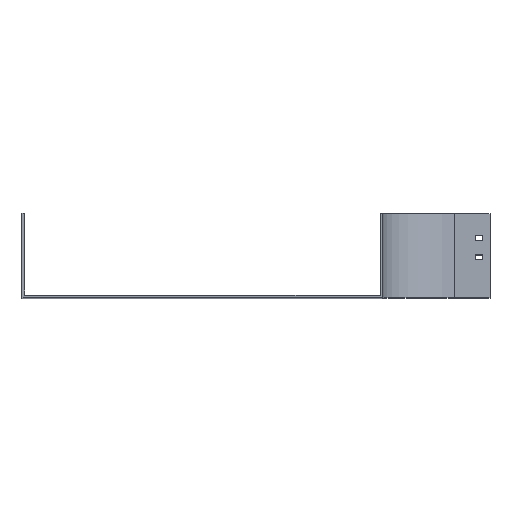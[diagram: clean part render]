
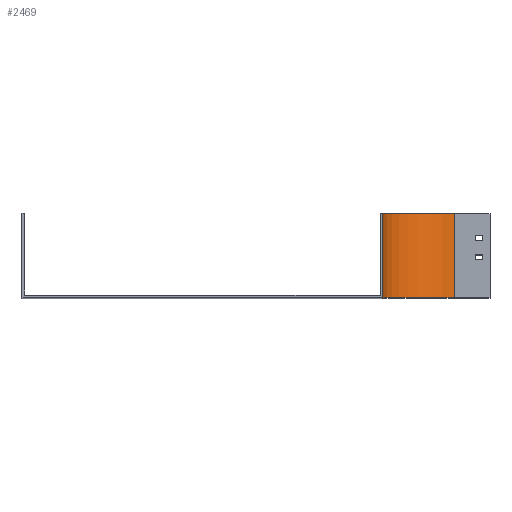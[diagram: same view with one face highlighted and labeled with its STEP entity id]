
A CAD part, top view. The second image highlights one B-rep face of the part: STEP entity #2469.
In plain terms, the highlighted cylindrical face has radius 100 mm (diameter 200 mm), a partial arc.
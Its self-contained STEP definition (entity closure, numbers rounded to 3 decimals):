
#34 = VERTEX_POINT ( 'NONE', #1162 ) ;
#69 = EDGE_LOOP ( 'NONE', ( #1369, #306, #1357, #2730 ) ) ;
#108 = EDGE_CURVE ( 'NONE', #2663, #34, #1078, .T. ) ;
#184 = DIRECTION ( 'NONE',  ( 0., 0., -1. ) ) ;
#306 = ORIENTED_EDGE ( 'NONE', *, *, #108, .F. ) ;
#365 = AXIS2_PLACEMENT_3D ( 'NONE', #1504, #2346, #184 ) ;
#392 = DIRECTION ( 'NONE',  ( 0., -1., 0. ) ) ;
#601 = DIRECTION ( 'NONE',  ( 0., 0., -1. ) ) ;
#727 = DIRECTION ( 'NONE',  ( 0., 0., -1. ) ) ;
#779 = CARTESIAN_POINT ( 'NONE',  ( -100., 117.5, 0. ) ) ;
#865 = CIRCLE ( 'NONE', #365, 100. ) ;
#916 = VECTOR ( 'NONE', #979, 1000. ) ;
#979 = DIRECTION ( 'NONE',  ( 0., -1., 0. ) ) ;
#989 = AXIS2_PLACEMENT_3D ( 'NONE', #1616, #2393, #727 ) ;
#1078 = LINE ( 'NONE', #1507, #1843 ) ;
#1159 = LINE ( 'NONE', #779, #916 ) ;
#1162 = CARTESIAN_POINT ( 'NONE',  ( 0., 0., -100. ) ) ;
#1183 = EDGE_CURVE ( 'NONE', #2028, #34, #1399, .T. ) ;
#1249 = EDGE_CURVE ( 'NONE', #2709, #2663, #865, .T. ) ;
#1294 = DIRECTION ( 'NONE',  ( 0., -1., 0. ) ) ;
#1357 = ORIENTED_EDGE ( 'NONE', *, *, #1249, .F. ) ;
#1369 = ORIENTED_EDGE ( 'NONE', *, *, #1183, .T. ) ;
#1399 = CIRCLE ( 'NONE', #989, 100. ) ;
#1504 = CARTESIAN_POINT ( 'NONE',  ( 0., 117.5, 0. ) ) ;
#1507 = CARTESIAN_POINT ( 'NONE',  ( 0., 117.5, -100. ) ) ;
#1616 = CARTESIAN_POINT ( 'NONE',  ( 0., 0., 0. ) ) ;
#1723 = CARTESIAN_POINT ( 'NONE',  ( -100., 0., 0. ) ) ;
#1752 = CARTESIAN_POINT ( 'NONE',  ( 0., 117.5, -100. ) ) ;
#1843 = VECTOR ( 'NONE', #1294, 1000. ) ;
#1953 = EDGE_CURVE ( 'NONE', #2709, #2028, #1159, .T. ) ;
#2028 = VERTEX_POINT ( 'NONE', #1723 ) ;
#2121 = FACE_OUTER_BOUND ( 'NONE', #69, .T. ) ;
#2346 = DIRECTION ( 'NONE',  ( 0., -1., 0. ) ) ;
#2393 = DIRECTION ( 'NONE',  ( 0., -1., 0. ) ) ;
#2451 = AXIS2_PLACEMENT_3D ( 'NONE', #2731, #392, #601 ) ;
#2469 = ADVANCED_FACE ( 'NONE', ( #2121 ), #2487, .F. ) ;
#2487 = CYLINDRICAL_SURFACE ( 'NONE', #2451, 100. ) ;
#2499 = CARTESIAN_POINT ( 'NONE',  ( -100., 117.5, 0. ) ) ;
#2663 = VERTEX_POINT ( 'NONE', #1752 ) ;
#2709 = VERTEX_POINT ( 'NONE', #2499 ) ;
#2730 = ORIENTED_EDGE ( 'NONE', *, *, #1953, .T. ) ;
#2731 = CARTESIAN_POINT ( 'NONE',  ( 0., 117.5, 0. ) ) ;
